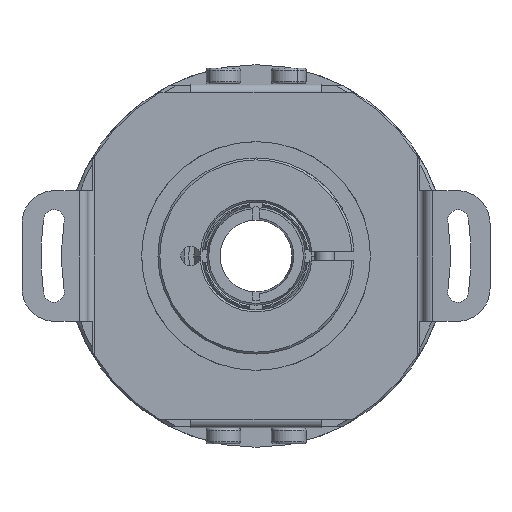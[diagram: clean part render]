
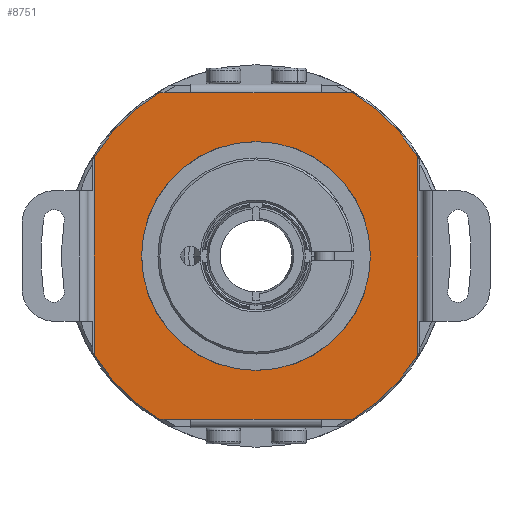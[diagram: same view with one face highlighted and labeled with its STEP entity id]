
A CAD part, front view. The second image highlights one B-rep face of the part: STEP entity #8751.
In plain terms, the highlighted planar face has unit normal (0, -1, 0).
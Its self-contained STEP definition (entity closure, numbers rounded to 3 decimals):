
#239 = EDGE_LOOP ( 'NONE', ( #27884, #9790 ) ) ;
#764 = DIRECTION ( 'NONE',  ( 0., 0., -1. ) ) ;
#1462 = AXIS2_PLACEMENT_3D ( 'NONE', #51448, #39293, #47494 ) ;
#1588 = DIRECTION ( 'NONE',  ( 0., -1., 0. ) ) ;
#2097 = EDGE_CURVE ( 'NONE', #3621, #18670, #51790, .T. ) ;
#3025 = CIRCLE ( 'NONE', #24200, 29. ) ;
#3621 = VERTEX_POINT ( 'NONE', #14484 ) ;
#3682 = AXIS2_PLACEMENT_3D ( 'NONE', #50161, #41963, #764 ) ;
#4537 = AXIS2_PLACEMENT_3D ( 'NONE', #28906, #42152, #41962 ) ;
#4834 = DIRECTION ( 'NONE',  ( 0., 0., 1. ) ) ;
#4914 = CARTESIAN_POINT ( 'NONE',  ( -14.697, -4.194, 25. ) ) ;
#5037 = FACE_OUTER_BOUND ( 'NONE', #39579, .T. ) ;
#5517 = LINE ( 'NONE', #40853, #6203 ) ;
#6010 = EDGE_CURVE ( 'NONE', #39098, #3621, #46122, .T. ) ;
#6197 = DIRECTION ( 'NONE',  ( -1., 0., 0. ) ) ;
#6203 = VECTOR ( 'NONE', #24928, 1000. ) ;
#6591 = CARTESIAN_POINT ( 'NONE',  ( 24.7, -4.194, -15.196 ) ) ;
#7572 = EDGE_CURVE ( 'NONE', #19882, #27539, #23443, .T. ) ;
#7614 = CARTESIAN_POINT ( 'NONE',  ( -5., -4.194, -25. ) ) ;
#7878 = VECTOR ( 'NONE', #10518, 1000. ) ;
#8291 = VECTOR ( 'NONE', #6197, 1000. ) ;
#8751 = ADVANCED_FACE ( 'NONE', ( #5037, #42192 ), #45355, .T. ) ;
#8757 = CARTESIAN_POINT ( 'NONE',  ( 24.7, -4.194, 15.196 ) ) ;
#9608 = CARTESIAN_POINT ( 'NONE',  ( 0., -4.194, 17.5 ) ) ;
#9790 = ORIENTED_EDGE ( 'NONE', *, *, #31742, .F. ) ;
#10518 = DIRECTION ( 'NONE',  ( 1., 0., 0. ) ) ;
#10832 = CARTESIAN_POINT ( 'NONE',  ( -24.7, -4.194, -35.2 ) ) ;
#11054 = CIRCLE ( 'NONE', #27449, 29. ) ;
#13140 = VERTEX_POINT ( 'NONE', #39351 ) ;
#13619 = EDGE_CURVE ( 'NONE', #51915, #37662, #11054, .T. ) ;
#14291 = DIRECTION ( 'NONE',  ( 0., 0., -1. ) ) ;
#14349 = EDGE_CURVE ( 'NONE', #19882, #18480, #35833, .T. ) ;
#14484 = CARTESIAN_POINT ( 'NONE',  ( -10., -4.194, -25. ) ) ;
#14868 = ORIENTED_EDGE ( 'NONE', *, *, #13619, .F. ) ;
#14943 = DIRECTION ( 'NONE',  ( 0., 0., 1. ) ) ;
#15069 = ORIENTED_EDGE ( 'NONE', *, *, #21875, .F. ) ;
#15135 = VERTEX_POINT ( 'NONE', #28380 ) ;
#16441 = VECTOR ( 'NONE', #14943, 1000. ) ;
#17170 = VERTEX_POINT ( 'NONE', #6591 ) ;
#17799 = CARTESIAN_POINT ( 'NONE',  ( 0., -4.194, 0. ) ) ;
#18366 = CARTESIAN_POINT ( 'NONE',  ( -10., -4.194, 25. ) ) ;
#18480 = VERTEX_POINT ( 'NONE', #38747 ) ;
#18537 = DIRECTION ( 'NONE',  ( 0., 0., -1. ) ) ;
#18670 = VERTEX_POINT ( 'NONE', #27275 ) ;
#18721 = EDGE_CURVE ( 'NONE', #37662, #18480, #30268, .T. ) ;
#18820 = ORIENTED_EDGE ( 'NONE', *, *, #31018, .T. ) ;
#19783 = DIRECTION ( 'NONE',  ( -1., 0., 0. ) ) ;
#19882 = VERTEX_POINT ( 'NONE', #49318 ) ;
#20872 = VECTOR ( 'NONE', #48010, 1000. ) ;
#21875 = EDGE_CURVE ( 'NONE', #17170, #13140, #3025, .T. ) ;
#22483 = CARTESIAN_POINT ( 'NONE',  ( 0., -4.194, 0. ) ) ;
#22757 = CIRCLE ( 'NONE', #3682, 29. ) ;
#22974 = CARTESIAN_POINT ( 'NONE',  ( 0., -4.194, 0. ) ) ;
#23443 = LINE ( 'NONE', #48203, #20872 ) ;
#24200 = AXIS2_PLACEMENT_3D ( 'NONE', #22974, #38567, #18537 ) ;
#24903 = VECTOR ( 'NONE', #49629, 1000. ) ;
#24928 = DIRECTION ( 'NONE',  ( -1., 0., 0. ) ) ;
#25074 = CARTESIAN_POINT ( 'NONE',  ( 14.697, -4.194, 25. ) ) ;
#26959 = DIRECTION ( 'NONE',  ( 0., 1., 0. ) ) ;
#27275 = CARTESIAN_POINT ( 'NONE',  ( -14.697, -4.194, -25. ) ) ;
#27449 = AXIS2_PLACEMENT_3D ( 'NONE', #51809, #26959, #52156 ) ;
#27539 = VERTEX_POINT ( 'NONE', #25074 ) ;
#27678 = AXIS2_PLACEMENT_3D ( 'NONE', #22483, #50584, #14291 ) ;
#27884 = ORIENTED_EDGE ( 'NONE', *, *, #32227, .F. ) ;
#28380 = CARTESIAN_POINT ( 'NONE',  ( -24.7, -4.194, -15.196 ) ) ;
#28562 = CARTESIAN_POINT ( 'NONE',  ( -5., -4.194, 25. ) ) ;
#28906 = CARTESIAN_POINT ( 'NONE',  ( -5., -4.194, -35.2 ) ) ;
#29987 = VERTEX_POINT ( 'NONE', #9608 ) ;
#30070 = ORIENTED_EDGE ( 'NONE', *, *, #30541, .T. ) ;
#30268 = LINE ( 'NONE', #18366, #7878 ) ;
#30459 = DIRECTION ( 'NONE',  ( 0., 0., -1. ) ) ;
#30541 = EDGE_CURVE ( 'NONE', #45847, #27539, #50695, .T. ) ;
#31018 = EDGE_CURVE ( 'NONE', #17170, #45847, #33339, .T. ) ;
#31352 = CARTESIAN_POINT ( 'NONE',  ( -24.7, -4.194, 15.196 ) ) ;
#31742 = EDGE_CURVE ( 'NONE', #29987, #39315, #51986, .T. ) ;
#32227 = EDGE_CURVE ( 'NONE', #39315, #29987, #35014, .T. ) ;
#32469 = LINE ( 'NONE', #10832, #16441 ) ;
#33339 = LINE ( 'NONE', #49551, #36508 ) ;
#34500 = ORIENTED_EDGE ( 'NONE', *, *, #7572, .F. ) ;
#34513 = CARTESIAN_POINT ( 'NONE',  ( -25., -4.194, -25. ) ) ;
#34665 = CARTESIAN_POINT ( 'NONE',  ( 0., -4.194, -17.5 ) ) ;
#35014 = CIRCLE ( 'NONE', #27678, 17.5 ) ;
#35833 = LINE ( 'NONE', #28562, #24903 ) ;
#36508 = VECTOR ( 'NONE', #4834, 1000. ) ;
#36575 = EDGE_CURVE ( 'NONE', #15135, #18670, #22757, .T. ) ;
#37662 = VERTEX_POINT ( 'NONE', #4914 ) ;
#38567 = DIRECTION ( 'NONE',  ( 0., 1., 0. ) ) ;
#38747 = CARTESIAN_POINT ( 'NONE',  ( -10., -4.194, 25. ) ) ;
#39098 = VERTEX_POINT ( 'NONE', #41232 ) ;
#39293 = DIRECTION ( 'NONE',  ( 0., -1., 0. ) ) ;
#39315 = VERTEX_POINT ( 'NONE', #34665 ) ;
#39351 = CARTESIAN_POINT ( 'NONE',  ( 14.697, -4.194, -25. ) ) ;
#39579 = EDGE_LOOP ( 'NONE', ( #45366, #49556, #44892, #46614, #43446, #15069, #18820, #30070, #34500, #44174, #45082, #14868 ) ) ;
#40853 = CARTESIAN_POINT ( 'NONE',  ( 10., -4.194, -25. ) ) ;
#41232 = CARTESIAN_POINT ( 'NONE',  ( 10., -4.194, -25. ) ) ;
#41315 = AXIS2_PLACEMENT_3D ( 'NONE', #17799, #1588, #30459 ) ;
#41962 = DIRECTION ( 'NONE',  ( 0., 0., -1. ) ) ;
#41963 = DIRECTION ( 'NONE',  ( 0., -1., 0. ) ) ;
#42152 = DIRECTION ( 'NONE',  ( 0., -1., 0. ) ) ;
#42192 = FACE_BOUND ( 'NONE', #239, .T. ) ;
#43446 = ORIENTED_EDGE ( 'NONE', *, *, #49066, .F. ) ;
#43632 = EDGE_CURVE ( 'NONE', #15135, #51915, #32469, .T. ) ;
#44174 = ORIENTED_EDGE ( 'NONE', *, *, #14349, .T. ) ;
#44892 = ORIENTED_EDGE ( 'NONE', *, *, #2097, .F. ) ;
#45082 = ORIENTED_EDGE ( 'NONE', *, *, #18721, .F. ) ;
#45355 = PLANE ( 'NONE',  #4537 ) ;
#45366 = ORIENTED_EDGE ( 'NONE', *, *, #43632, .F. ) ;
#45847 = VERTEX_POINT ( 'NONE', #8757 ) ;
#46122 = LINE ( 'NONE', #7614, #49354 ) ;
#46614 = ORIENTED_EDGE ( 'NONE', *, *, #6010, .F. ) ;
#47494 = DIRECTION ( 'NONE',  ( 1., 0., 0. ) ) ;
#48010 = DIRECTION ( 'NONE',  ( 1., 0., 0. ) ) ;
#48203 = CARTESIAN_POINT ( 'NONE',  ( 25., -4.194, 25. ) ) ;
#49066 = EDGE_CURVE ( 'NONE', #13140, #39098, #5517, .T. ) ;
#49318 = CARTESIAN_POINT ( 'NONE',  ( 10., -4.194, 25. ) ) ;
#49354 = VECTOR ( 'NONE', #19783, 1000. ) ;
#49551 = CARTESIAN_POINT ( 'NONE',  ( 24.7, -4.194, -35.2 ) ) ;
#49556 = ORIENTED_EDGE ( 'NONE', *, *, #36575, .T. ) ;
#49629 = DIRECTION ( 'NONE',  ( -1., 0., 0. ) ) ;
#50161 = CARTESIAN_POINT ( 'NONE',  ( 0., -4.194, 0. ) ) ;
#50584 = DIRECTION ( 'NONE',  ( 0., -1., 0. ) ) ;
#50695 = CIRCLE ( 'NONE', #1462, 29. ) ;
#51448 = CARTESIAN_POINT ( 'NONE',  ( 0., -4.194, 0. ) ) ;
#51790 = LINE ( 'NONE', #34513, #8291 ) ;
#51809 = CARTESIAN_POINT ( 'NONE',  ( 0., -4.194, 0. ) ) ;
#51915 = VERTEX_POINT ( 'NONE', #31352 ) ;
#51986 = CIRCLE ( 'NONE', #41315, 17.5 ) ;
#52156 = DIRECTION ( 'NONE',  ( 0., 0., 1. ) ) ;
